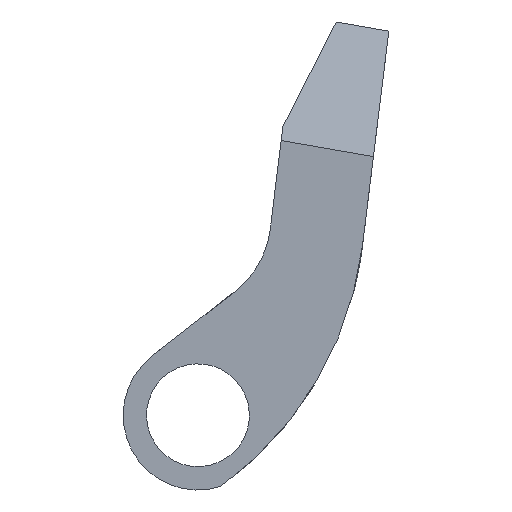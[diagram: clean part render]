
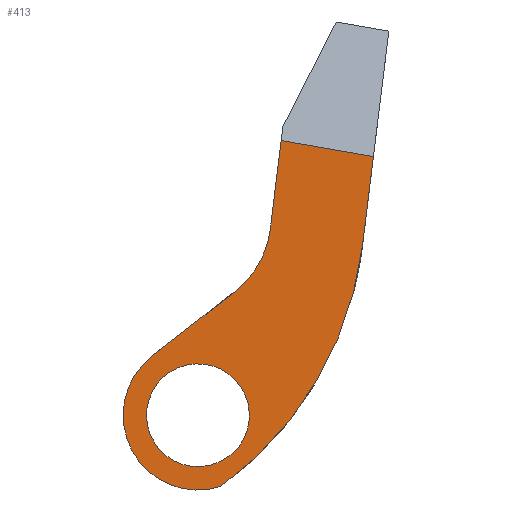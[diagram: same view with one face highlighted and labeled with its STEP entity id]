
A CAD part, front view. The second image highlights one B-rep face of the part: STEP entity #413.
In plain terms, the highlighted planar face has unit normal (0, -1, 0).
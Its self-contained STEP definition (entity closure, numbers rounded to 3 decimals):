
#28=FACE_BOUND('',#165,.T.);
#35=CIRCLE('',#451,15.);
#38=CIRCLE('',#455,4.);
#43=CIRCLE('',#467,3.2);
#44=CIRCLE('',#468,2.2);
#49=LINE('',#606,#86);
#55=LINE('',#619,#92);
#64=LINE('',#640,#101);
#77=LINE('',#702,#114);
#86=VECTOR('',#483,10.);
#92=VECTOR('',#495,10.);
#101=VECTOR('',#512,10.);
#114=VECTOR('',#559,10.);
#138=FACE_OUTER_BOUND('',#164,.T.);
#164=EDGE_LOOP('',(#364,#365,#366,#367,#368,#369,#370));
#165=EDGE_LOOP('',(#371));
#172=VERTEX_POINT('',#597);
#176=VERTEX_POINT('',#604);
#180=VERTEX_POINT('',#618);
#188=VERTEX_POINT('',#638);
#195=VERTEX_POINT('',#676);
#200=VERTEX_POINT('',#688);
#205=VERTEX_POINT('',#700);
#208=VERTEX_POINT('',#719);
#214=EDGE_CURVE('',#176,#172,#49,.T.);
#220=EDGE_CURVE('',#172,#180,#55,.T.);
#231=EDGE_CURVE('',#188,#176,#64,.T.);
#242=EDGE_CURVE('',#180,#195,#35,.T.);
#248=EDGE_CURVE('',#200,#188,#38,.T.);
#255=EDGE_CURVE('',#205,#200,#77,.T.);
#263=EDGE_CURVE('',#195,#205,#43,.T.);
#264=EDGE_CURVE('',#208,#208,#44,.T.);
#364=ORIENTED_EDGE('',*,*,#214,.F.);
#365=ORIENTED_EDGE('',*,*,#231,.F.);
#366=ORIENTED_EDGE('',*,*,#248,.F.);
#367=ORIENTED_EDGE('',*,*,#255,.F.);
#368=ORIENTED_EDGE('',*,*,#263,.F.);
#369=ORIENTED_EDGE('',*,*,#242,.F.);
#370=ORIENTED_EDGE('',*,*,#220,.F.);
#371=ORIENTED_EDGE('',*,*,#264,.F.);
#393=PLANE('',#466);
#413=ADVANCED_FACE('',(#138,#28),#393,.F.);
#451=AXIS2_PLACEMENT_3D('',#677,#538,#539);
#455=AXIS2_PLACEMENT_3D('',#689,#549,#550);
#466=AXIS2_PLACEMENT_3D('',#717,#581,#582);
#467=AXIS2_PLACEMENT_3D('',#718,#583,#584);
#468=AXIS2_PLACEMENT_3D('',#720,#585,#586);
#483=DIRECTION('',(0.985,0.,-0.171));
#495=DIRECTION('',(-0.122,0.,-0.993));
#512=DIRECTION('',(0.122,0.,0.993));
#538=DIRECTION('center_axis',(0.,1.,0.));
#539=DIRECTION('ref_axis',(0.647,0.,-0.763));
#549=DIRECTION('center_axis',(0.,-1.,0.));
#550=DIRECTION('ref_axis',(0.87,0.,-0.492));
#559=DIRECTION('',(0.788,0.,0.616));
#581=DIRECTION('center_axis',(0.,1.,0.));
#582=DIRECTION('ref_axis',(-0.993,0.,0.122));
#583=DIRECTION('center_axis',(0.,1.,0.));
#584=DIRECTION('ref_axis',(0.616,0.,-0.788));
#585=DIRECTION('center_axis',(0.,-1.,0.));
#586=DIRECTION('ref_axis',(-0.993,0.,0.122));
#597=CARTESIAN_POINT('',(7.505,10.6,-11.688));
#604=CARTESIAN_POINT('',(3.56,10.6,-11.002));
#606=CARTESIAN_POINT('',(4.135,10.6,-11.102));
#618=CARTESIAN_POINT('',(7.037,10.6,-15.499));
#619=CARTESIAN_POINT('',(7.406,10.6,-12.5));
#638=CARTESIAN_POINT('',(3.095,10.6,-14.784));
#640=CARTESIAN_POINT('',(2.901,10.6,-16.362));
#676=CARTESIAN_POINT('',(0.979,10.6,-25.797));
#677=CARTESIAN_POINT('Origin',(-7.851,10.6,-13.671));
#688=CARTESIAN_POINT('',(1.588,10.6,-17.449));
#689=CARTESIAN_POINT('Origin',(-0.875,10.6,-14.297));
#700=CARTESIAN_POINT('',(-1.97,10.6,-20.228));
#702=CARTESIAN_POINT('',(0.566,10.6,-18.247));
#717=CARTESIAN_POINT('Origin',(2.895,10.6,-16.002));
#718=CARTESIAN_POINT('Origin',(0.,10.6,-22.75));
#719=CARTESIAN_POINT('',(2.184,10.6,-23.018));
#720=CARTESIAN_POINT('Origin',(0.,10.6,-22.75));
